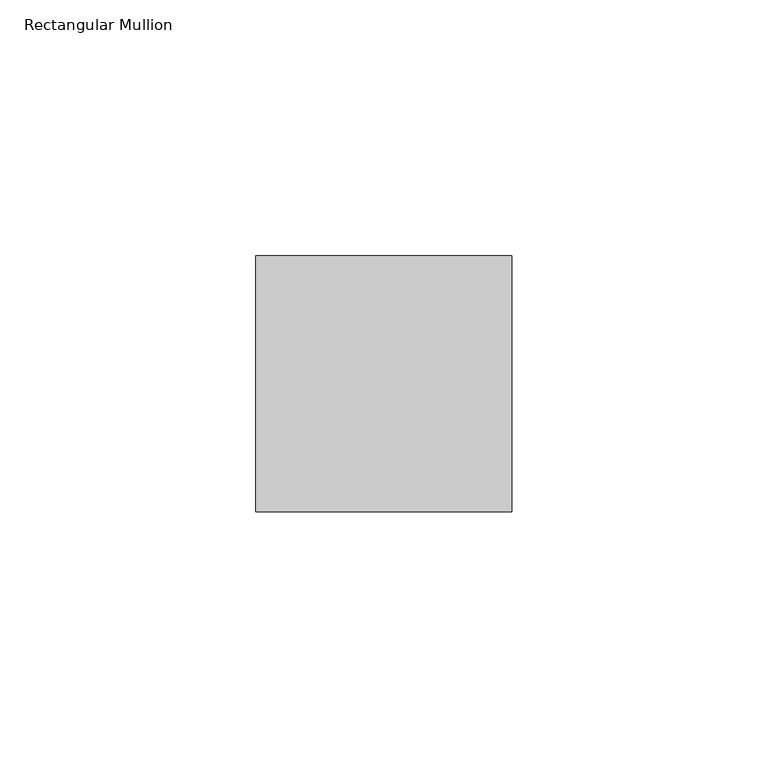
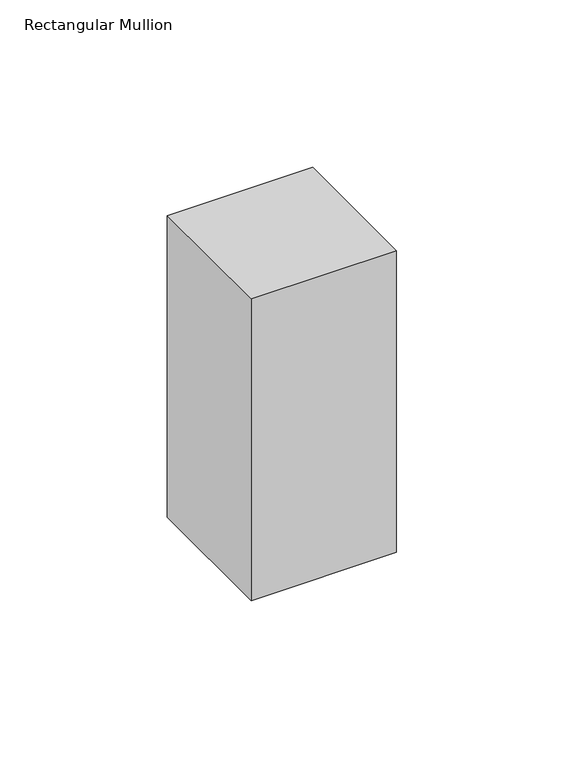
"""IFC4 building model written with IfcOpenShell, lengths in millimetres: member geometry, Rectangular Mullion : RSen_21_CWM_support profile 50x50 - right_gen_duco projects."""

from ifc_helpers import new_model, si_unit, frame, origin, place, context, project, spatial, polyline, outline, extrude, source, transform, mapped, element, save


def rectangular_mullion_60d32940(model_context):
    return source(origin(), model_context, "Body", "SweptSolid", [
        extrude(outline(polyline([(-50.0, 1.0), (0.0, 1.0), (0.0, -49.0), (-50.0, -49.0), (-50.0, 1.0)])), frame((0.0, 0.0, -110.0), z_axis=(0.0, 0.0, 1.0), x_axis=(1.0, 0.0, 0.0)), (0.0, 0.0, 1.0), 110.0),
    ])


if __name__ == "__main__":
    model = new_model("IFC4")
    model_context = context("Model", 3, world=origin())
    ifc_project = project(units=[si_unit("LENGTHUNIT", "METRE", prefix="MILLI")], contexts=[model_context])
    site = spatial("IfcSite", under=ifc_project)
    building = spatial("IfcBuilding", under=site)
    placement = place(None, origin())
    rectangular_mullion_shape = rectangular_mullion_60d32940(model_context)
    element("IfcMember", 1, ObjectType="Rectangular Mullion : RSen_21_CWM_support profile 50x50 - right_gen_duco projects", at=placement, inside=building, context=model_context, shape_type="MappedRepresentation", body=[
        mapped(rectangular_mullion_shape, transform((0.0, 0.0, 0.0), x_axis=(1.0, 0.0, 0.0), y_axis=(0.0, 1.0, 0.0), z_axis=(0.0, 0.0, 1.0))),
    ])
    save(model, "model.ifc")
